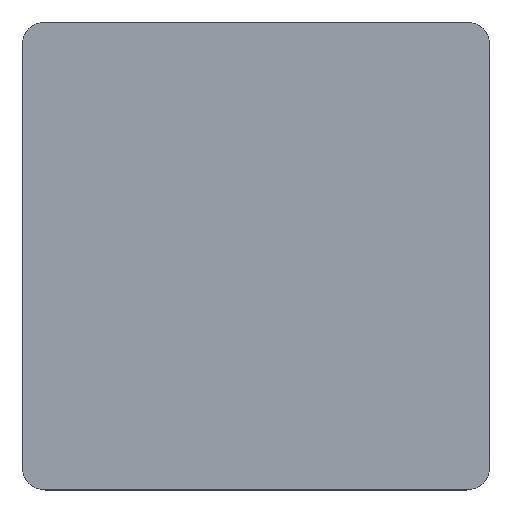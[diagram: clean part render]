
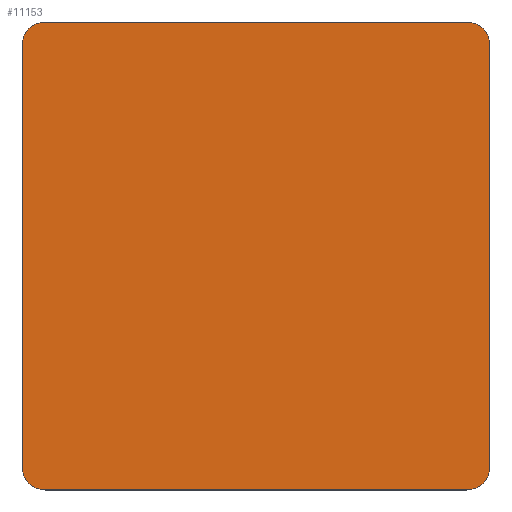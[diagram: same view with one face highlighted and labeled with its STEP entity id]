
A CAD part, top view. The second image highlights one B-rep face of the part: STEP entity #11153.
In plain terms, the highlighted planar face has unit normal (0, 0, 1).
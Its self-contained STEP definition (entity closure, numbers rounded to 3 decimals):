
#11078=CARTESIAN_POINT('',(0.,0.,20.));
#11079=DIRECTION('',(1.,0.,0.));
#11080=DIRECTION('',(0.,0.,1.));
#11081=AXIS2_PLACEMENT_3D('',#11078,#11080,#11079);
#11082=PLANE('',#11081);
#11083=CARTESIAN_POINT('',(-315.,-350.,20.));
#11084=VERTEX_POINT('',#11083);
#11085=CARTESIAN_POINT('',(315.,-350.,20.));
#11086=VERTEX_POINT('',#11085);
#11087=CARTESIAN_POINT('',(-315.,-350.,20.));
#11088=DIRECTION('',(1.,0.,0.));
#11089=VECTOR('',#11088,630.);
#11090=LINE('',#11087,#11089);
#11091=EDGE_CURVE('',#11084,#11086,#11090,.T.);
#11092=ORIENTED_EDGE('E9',*,*,#11091,.T.);
#11093=CARTESIAN_POINT('',(350.,-315.,20.));
#11094=VERTEX_POINT('',#11093);
#11095=CARTESIAN_POINT('',(315.,-315.,20.));
#11096=DIRECTION('',(0.,-1.,0.));
#11097=DIRECTION('',(0.,0.,1.));
#11098=AXIS2_PLACEMENT_3D('',#11095,#11097,#11096);
#11099=CIRCLE('',#11098,35.);
#11100=EDGE_CURVE('',#11086,#11094,#11099,.T.);
#11101=ORIENTED_EDGE('E10',*,*,#11100,.T.);
#11102=CARTESIAN_POINT('',(350.,315.,20.));
#11103=VERTEX_POINT('',#11102);
#11104=CARTESIAN_POINT('',(350.,-315.,20.));
#11105=DIRECTION('',(0.,1.,0.));
#11106=VECTOR('',#11105,630.);
#11107=LINE('',#11104,#11106);
#11108=EDGE_CURVE('',#11094,#11103,#11107,.T.);
#11109=ORIENTED_EDGE('E11',*,*,#11108,.T.);
#11110=CARTESIAN_POINT('',(315.,350.,20.));
#11111=VERTEX_POINT('',#11110);
#11112=CARTESIAN_POINT('',(315.,315.,20.));
#11113=DIRECTION('',(1.,0.,0.));
#11114=DIRECTION('',(0.,0.,1.));
#11115=AXIS2_PLACEMENT_3D('',#11112,#11114,#11113);
#11116=CIRCLE('',#11115,35.);
#11117=EDGE_CURVE('',#11103,#11111,#11116,.T.);
#11118=ORIENTED_EDGE('E12',*,*,#11117,.T.);
#11119=CARTESIAN_POINT('',(-315.,350.,20.));
#11120=VERTEX_POINT('',#11119);
#11121=CARTESIAN_POINT('',(315.,350.,20.));
#11122=DIRECTION('',(-1.,0.,0.));
#11123=VECTOR('',#11122,630.);
#11124=LINE('',#11121,#11123);
#11125=EDGE_CURVE('',#11111,#11120,#11124,.T.);
#11126=ORIENTED_EDGE('E13',*,*,#11125,.T.);
#11127=CARTESIAN_POINT('',(-350.,315.,20.));
#11128=VERTEX_POINT('',#11127);
#11129=CARTESIAN_POINT('',(-315.,315.,20.));
#11130=DIRECTION('',(0.,1.,0.));
#11131=DIRECTION('',(0.,0.,1.));
#11132=AXIS2_PLACEMENT_3D('',#11129,#11131,#11130);
#11133=CIRCLE('',#11132,35.);
#11134=EDGE_CURVE('',#11120,#11128,#11133,.T.);
#11135=ORIENTED_EDGE('E14',*,*,#11134,.T.);
#11136=CARTESIAN_POINT('',(-350.,-315.,20.));
#11137=VERTEX_POINT('',#11136);
#11138=CARTESIAN_POINT('',(-350.,315.,20.));
#11139=DIRECTION('',(0.,-1.,0.));
#11140=VECTOR('',#11139,630.);
#11141=LINE('',#11138,#11140);
#11142=EDGE_CURVE('',#11128,#11137,#11141,.T.);
#11143=ORIENTED_EDGE('E15',*,*,#11142,.T.);
#11144=CARTESIAN_POINT('',(-315.,-315.,20.));
#11145=DIRECTION('',(-1.,0.,0.));
#11146=DIRECTION('',(-0.,0.,1.));
#11147=AXIS2_PLACEMENT_3D('',#11144,#11146,#11145);
#11148=CIRCLE('',#11147,35.);
#11149=EDGE_CURVE('',#11137,#11084,#11148,.T.);
#11150=ORIENTED_EDGE('E16',*,*,#11149,.T.);
#11151=EDGE_LOOP('',(#11092,#11101,#11109,#11118,#11126,#11135,#11143,#11150));
#11152=FACE_OUTER_BOUND('',#11151,.T.);
#11153=ADVANCED_FACE('F2',(#11152),#11082,.T.);
